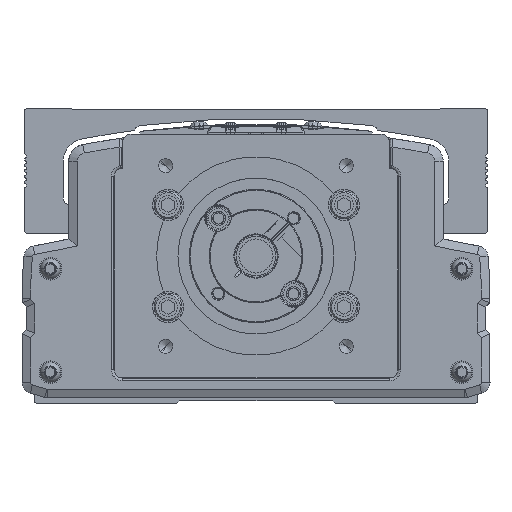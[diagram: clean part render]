
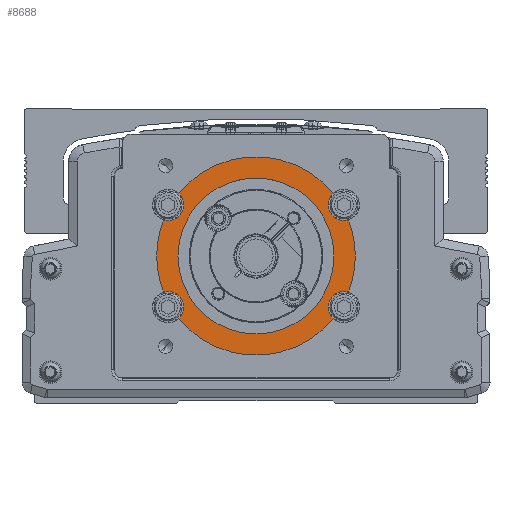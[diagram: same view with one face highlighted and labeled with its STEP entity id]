
A CAD part, front view. The second image highlights one B-rep face of the part: STEP entity #8688.
In plain terms, the highlighted planar face has unit normal (0, -1, 0).
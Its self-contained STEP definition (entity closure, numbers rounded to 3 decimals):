
#8688=ADVANCED_FACE('',(#17893,#17894),#17895,.F.);
#17893=FACE_OUTER_BOUND('',#30693,.T.);
#17894=FACE_BOUND('',#30694,.T.);
#17895=PLANE('',#30695);
#30693=EDGE_LOOP('',(#55752,#55753,#55754,#55755,#55756,#55757,#55758,#55759,#55760,#55761,#55762,#55763,#55764,#55765));
#30694=EDGE_LOOP('',(#55766,#55767));
#30695=AXIS2_PLACEMENT_3D('',#55768,#55769,#55770);
#55752=ORIENTED_EDGE('',*,*,#66103,.F.);
#55753=ORIENTED_EDGE('',*,*,#70997,.T.);
#55754=ORIENTED_EDGE('',*,*,#62494,.T.);
#55755=ORIENTED_EDGE('',*,*,#64092,.F.);
#55756=ORIENTED_EDGE('',*,*,#64431,.F.);
#55757=ORIENTED_EDGE('',*,*,#65132,.T.);
#55758=ORIENTED_EDGE('',*,*,#70763,.F.);
#55759=ORIENTED_EDGE('',*,*,#70998,.F.);
#55760=ORIENTED_EDGE('',*,*,#63006,.T.);
#55761=ORIENTED_EDGE('',*,*,#70999,.T.);
#55762=ORIENTED_EDGE('',*,*,#66713,.F.);
#55763=ORIENTED_EDGE('',*,*,#64619,.F.);
#55764=ORIENTED_EDGE('',*,*,#65625,.T.);
#55765=ORIENTED_EDGE('',*,*,#61071,.F.);
#55766=ORIENTED_EDGE('',*,*,#70851,.F.);
#55767=ORIENTED_EDGE('',*,*,#71000,.F.);
#55768=CARTESIAN_POINT('',(-600.,-146.778,0.));
#55769=DIRECTION('',(0.,1.0,0.));
#55770=DIRECTION('',(-1.0,0.,0.));
#61071=EDGE_CURVE('',#72382,#72384,#72385,.T.);
#62494=EDGE_CURVE('',#74907,#74912,#74914,.T.);
#63006=EDGE_CURVE('',#75792,#75790,#75793,.T.);
#64092=EDGE_CURVE('',#77580,#74912,#77582,.T.);
#64431=EDGE_CURVE('',#78140,#77580,#78142,.T.);
#64619=EDGE_CURVE('',#78436,#78438,#78439,.T.);
#65132=EDGE_CURVE('',#78140,#79270,#79272,.T.);
#65625=EDGE_CURVE('',#78436,#72384,#80051,.T.);
#66103=EDGE_CURVE('',#80782,#72382,#80784,.T.);
#66713=EDGE_CURVE('',#78438,#81659,#81660,.T.);
#70763=EDGE_CURVE('',#86994,#79270,#86996,.T.);
#70851=EDGE_CURVE('',#87090,#87088,#87092,.T.);
#70997=EDGE_CURVE('',#80782,#74907,#87244,.T.);
#70998=EDGE_CURVE('',#75792,#86994,#87245,.T.);
#70999=EDGE_CURVE('',#75790,#81659,#87246,.T.);
#71000=EDGE_CURVE('',#87088,#87090,#87247,.T.);
#72382=VERTEX_POINT('',#89022);
#72384=VERTEX_POINT('',#89025);
#72385=CIRCLE('',#89026,5.5);
#74907=VERTEX_POINT('',#92661);
#74912=VERTEX_POINT('',#92667);
#74914=CIRCLE('',#92670,35.0);
#75790=VERTEX_POINT('',#94121);
#75792=VERTEX_POINT('',#94124);
#75793=CIRCLE('',#94125,35.0);
#77580=VERTEX_POINT('',#96875);
#77582=CIRCLE('',#96878,5.5);
#78140=VERTEX_POINT('',#97612);
#78142=CIRCLE('',#97615,5.5);
#78436=VERTEX_POINT('',#98026);
#78438=VERTEX_POINT('',#98029);
#78439=CIRCLE('',#98030,5.5);
#79270=VERTEX_POINT('',#99236);
#79272=CIRCLE('',#99239,35.0);
#80051=CIRCLE('',#100462,35.0);
#80782=VERTEX_POINT('',#101479);
#80784=CIRCLE('',#101482,5.5);
#81659=VERTEX_POINT('',#102651);
#81660=CIRCLE('',#102652,5.5);
#86994=VERTEX_POINT('',#110342);
#86996=CIRCLE('',#110345,5.5);
#87088=VERTEX_POINT('',#110481);
#87090=VERTEX_POINT('',#110484);
#87092=CIRCLE('',#110487,27.5);
#87244=CIRCLE('',#110749,35.0);
#87245=CIRCLE('',#110750,5.5);
#87246=CIRCLE('',#110751,35.0);
#87247=CIRCLE('',#110752,27.5);
#89022=CARTESIAN_POINT('',(-625.5,-146.778,18.));
#89025=CARTESIAN_POINT('',(-627.223,-146.778,21.998));
#89026=AXIS2_PLACEMENT_3D('',#112261,#112262,#112263);
#92661=CARTESIAN_POINT('',(-635.,-146.778,0.));
#92667=CARTESIAN_POINT('',(-632.6,-146.778,-12.738));
#92670=AXIS2_PLACEMENT_3D('',#114446,#114447,#114448);
#94121=CARTESIAN_POINT('',(-565.,-146.778,0.));
#94124=CARTESIAN_POINT('',(-567.4,-146.778,-12.738));
#94125=AXIS2_PLACEMENT_3D('',#115125,#115126,#115127);
#96875=CARTESIAN_POINT('',(-625.5,-146.778,-18.));
#96878=AXIS2_PLACEMENT_3D('',#116586,#116587,#116588);
#97612=CARTESIAN_POINT('',(-627.223,-146.778,-21.998));
#97615=AXIS2_PLACEMENT_3D('',#117066,#117067,#117068);
#98026=CARTESIAN_POINT('',(-572.777,-146.778,21.998));
#98029=CARTESIAN_POINT('',(-574.5,-146.778,18.));
#98030=AXIS2_PLACEMENT_3D('',#117303,#117304,#117305);
#99236=CARTESIAN_POINT('',(-572.777,-146.778,-21.998));
#99239=AXIS2_PLACEMENT_3D('',#118003,#118004,#118005);
#100462=AXIS2_PLACEMENT_3D('',#118679,#118680,#118681);
#101479=CARTESIAN_POINT('',(-632.6,-146.778,12.738));
#101482=AXIS2_PLACEMENT_3D('',#119378,#119379,#119380);
#102651=CARTESIAN_POINT('',(-567.4,-146.778,12.738));
#102652=AXIS2_PLACEMENT_3D('',#120209,#120210,#120211);
#110342=CARTESIAN_POINT('',(-574.5,-146.778,-18.));
#110345=AXIS2_PLACEMENT_3D('',#124989,#124990,#124991);
#110481=CARTESIAN_POINT('',(-627.5,-146.778,0.));
#110484=CARTESIAN_POINT('',(-572.5,-146.778,0.));
#110487=AXIS2_PLACEMENT_3D('',#125052,#125053,#125054);
#110749=AXIS2_PLACEMENT_3D('',#125168,#125169,#125170);
#110750=AXIS2_PLACEMENT_3D('',#125171,#125172,#125173);
#110751=AXIS2_PLACEMENT_3D('',#125174,#125175,#125176);
#110752=AXIS2_PLACEMENT_3D('',#125177,#125178,#125179);
#112261=CARTESIAN_POINT('',(-631.,-146.778,18.));
#112262=DIRECTION('',(0.,-1.0,0.));
#112263=DIRECTION('',(-1.0,0.,0.));
#114446=CARTESIAN_POINT('',(-600.,-146.778,0.));
#114447=DIRECTION('',(0.,-1.0,0.));
#114448=DIRECTION('',(-1.0,0.,0.));
#115125=CARTESIAN_POINT('',(-600.,-146.778,0.));
#115126=DIRECTION('',(0.,-1.0,0.));
#115127=DIRECTION('',(-1.0,0.,0.));
#116586=CARTESIAN_POINT('',(-631.,-146.778,-18.));
#116587=DIRECTION('',(0.,-1.0,0.));
#116588=DIRECTION('',(-1.0,0.,0.));
#117066=CARTESIAN_POINT('',(-631.,-146.778,-18.));
#117067=DIRECTION('',(0.,-1.0,0.));
#117068=DIRECTION('',(-1.0,0.,0.));
#117303=CARTESIAN_POINT('',(-569.,-146.778,18.));
#117304=DIRECTION('',(0.,-1.0,0.));
#117305=DIRECTION('',(1.0,0.,0.));
#118003=CARTESIAN_POINT('',(-600.,-146.778,0.));
#118004=DIRECTION('',(0.,-1.0,0.));
#118005=DIRECTION('',(-1.0,0.,0.));
#118679=CARTESIAN_POINT('',(-600.,-146.778,0.));
#118680=DIRECTION('',(0.,-1.0,0.));
#118681=DIRECTION('',(-1.0,0.,0.));
#119378=CARTESIAN_POINT('',(-631.,-146.778,18.));
#119379=DIRECTION('',(0.,-1.0,0.));
#119380=DIRECTION('',(-1.0,0.,0.));
#120209=CARTESIAN_POINT('',(-569.,-146.778,18.));
#120210=DIRECTION('',(0.,-1.0,0.));
#120211=DIRECTION('',(1.0,0.,0.));
#124989=CARTESIAN_POINT('',(-569.,-146.778,-18.));
#124990=DIRECTION('',(0.,-1.0,0.));
#124991=DIRECTION('',(1.0,0.,0.));
#125052=CARTESIAN_POINT('',(-600.,-146.778,0.));
#125053=DIRECTION('',(0.,-1.0,0.));
#125054=DIRECTION('',(-1.0,0.,0.));
#125168=CARTESIAN_POINT('',(-600.,-146.778,0.));
#125169=DIRECTION('',(0.,-1.0,0.));
#125170=DIRECTION('',(-1.0,0.,0.));
#125171=CARTESIAN_POINT('',(-569.,-146.778,-18.));
#125172=DIRECTION('',(0.,-1.0,0.));
#125173=DIRECTION('',(1.0,0.,0.));
#125174=CARTESIAN_POINT('',(-600.,-146.778,0.));
#125175=DIRECTION('',(0.,-1.0,0.));
#125176=DIRECTION('',(-1.0,0.,0.));
#125177=CARTESIAN_POINT('',(-600.,-146.778,0.));
#125178=DIRECTION('',(0.,-1.0,0.));
#125179=DIRECTION('',(-1.0,0.,0.));
